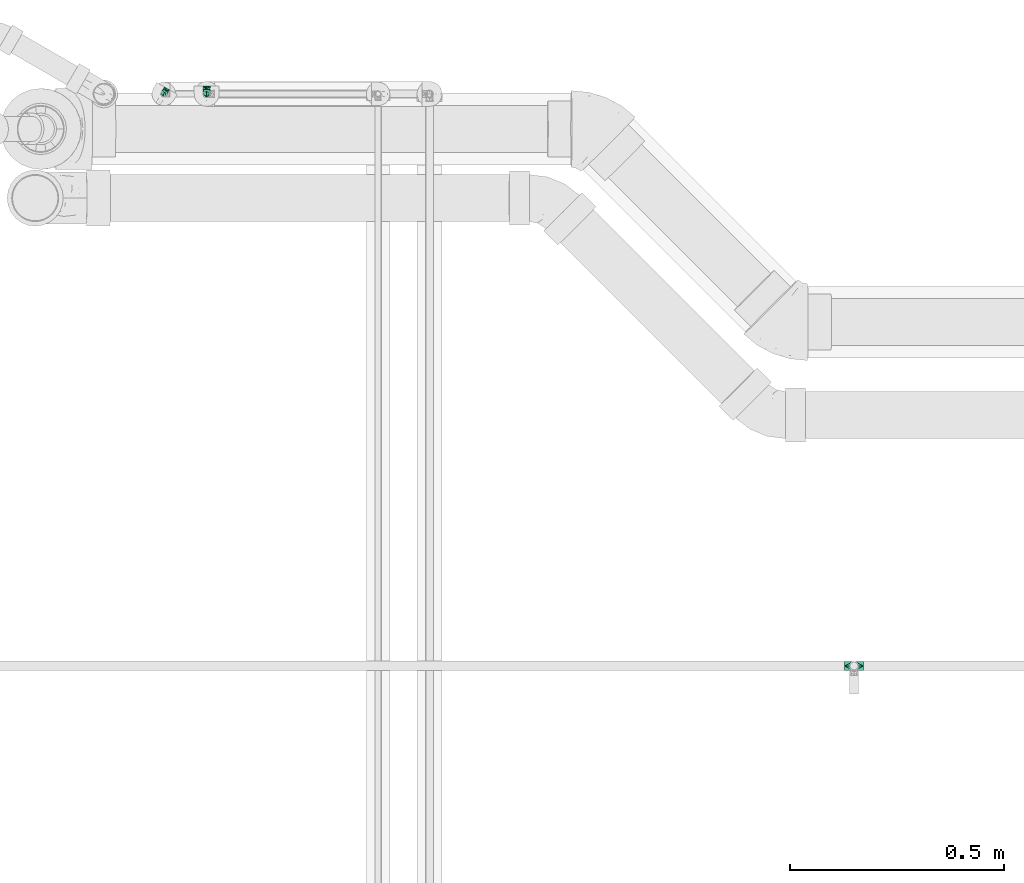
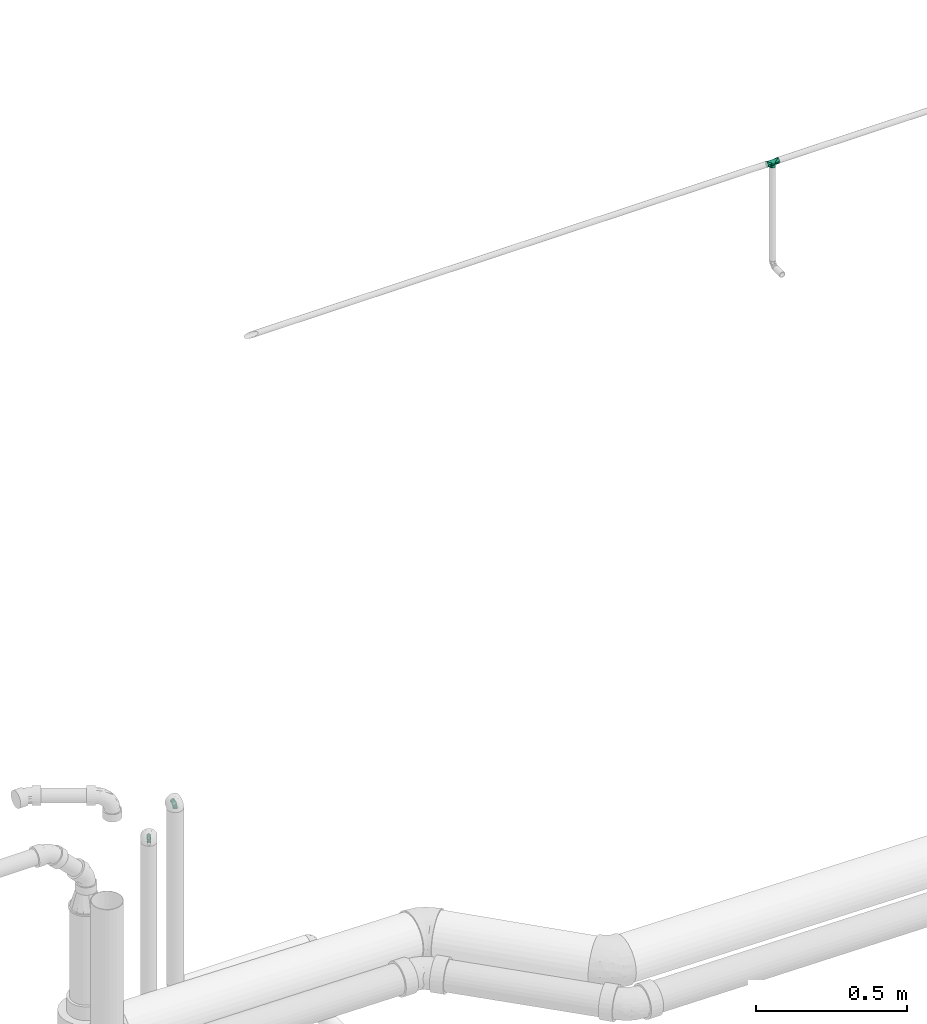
# One storey, part 77 of 78: 3 flow fittings.
"""IFC2X3 building model written with IfcOpenShell, lengths in millimetres."""

from ifc_helpers import new_model, entity, si_unit, converted_unit, derived_unit, direction, frame, origin_with_axes, place, context, subcontext, project, spatial, open_shell, surface_model, source, transform, mapped, type_object, element, save


model = new_model("IFC2X3")

# Units and contexts
model_context = context("Model", 3, precision=0.01, world=frame((0.0, 4.29681676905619e-09, 0.0)), true_north=direction((4.01073788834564e-13, 1.0)))
plan_context = context("Plan", 3, precision=0.01, world=frame((0.0, 4.29681676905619e-09, 0.0)), true_north=direction((4.01073788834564e-13, 1.0)))
body_context = subcontext(model_context, "Body", "Model", "MODEL_VIEW")
ifc_project = project(units=[converted_unit("PLANEANGLEUNIT", "DEGREE", entity("IfcPositiveLengthMeasure", 0.0174532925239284), si_unit("PLANEANGLEUNIT", "RADIAN"), dimensions=[0, 0, 0, 0, 0, 0, 0]), si_unit("AREAUNIT", "SQUARE_METRE"), si_unit("LENGTHUNIT", "METRE", prefix="MILLI"), si_unit("MASSUNIT", "GRAM", prefix="KILO"), si_unit("POWERUNIT", "WATT"), si_unit("PRESSUREUNIT", "PASCAL"), si_unit("FORCEUNIT", "NEWTON", prefix="KILO"), si_unit("ELECTRICVOLTAGEUNIT", "VOLT"), si_unit("ELECTRICCURRENTUNIT", "AMPERE"), si_unit("THERMODYNAMICTEMPERATUREUNIT", "DEGREE_CELSIUS"), si_unit("TIMEUNIT", "SECOND"), si_unit("VOLUMEUNIT", "CUBIC_METRE"), derived_unit("LINEARVELOCITYUNIT", [(si_unit("LENGTHUNIT", "METRE"), 1), (si_unit("TIMEUNIT", "SECOND"), -1)]), derived_unit("VOLUMETRICFLOWRATEUNIT", [(si_unit("VOLUMEUNIT", "CUBIC_METRE"), 1), (si_unit("TIMEUNIT", "SECOND"), -1)]), derived_unit("THERMALTRANSMITTANCEUNIT", [(si_unit("POWERUNIT", "WATT"), 1), (si_unit("THERMODYNAMICTEMPERATUREUNIT", "KELVIN"), -1), (si_unit("AREAUNIT", "SQUARE_METRE"), -1)]), derived_unit("SOUNDPRESSUREUNIT", [(si_unit("PRESSUREUNIT", "PASCAL"), 1)])], contexts=[model_context, plan_context])

# Site, building, storey
site_placement = place(None, frame((0.0, -4.29681676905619e-09, 0.0), z_axis=(0.0, 0.0, 1.0), x_axis=(1.0, 0.0, 0.0)))
site = spatial("IfcSite", under=ifc_project, at=site_placement, Name="ENGM", CompositionType="ELEMENT")
building_placement = place(site_placement, frame((0.0, 4.29681676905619e-09, 0.0), z_axis=(0.0, 0.0, 1.0), x_axis=(1.0, 0.0, 0.0)))
building = spatial("IfcBuilding", under=site, at=building_placement, Name="TH", CompositionType="ELEMENT")
storey_placement = place(building_placement, frame((0.0, 0.0, 205200.0), z_axis=(0.0, 0.0, 1.0), x_axis=(1.0, 0.0, 0.0)))
storey = spatial("IfcBuildingStorey", under=building, at=storey_placement, Name="Nivå D + 1,2 m", CompositionType="ELEMENT", Elevation=205200.0)

# Flow fittings
pipe_fitting_type_1 = type_object("IfcPipeFittingType", Name="magi_pipe_cu_elbow_short_001", PredefinedType="BEND")
shared_shape_1 = source(origin_with_axes(), body_context, "Body", "SurfaceModel", [
    surface_model("IfcShellBasedSurfaceModel", [(-17.99922, 4.5, -7.79423), (-17.99922, 2.32937, -8.69333), (-17.99922, 0.0, -9.0), (-17.99922, -6.36396, -6.36396), (-17.99922, 8.69333, -2.32937), (-17.99922, 7.79423, -4.5), (-17.99922, 6.36396, -6.36396), (-17.99922, -4.5, -7.79423), (-17.99922, -2.32937, -8.69333), (-17.99922, -7.79423, -4.5), (-17.99922, -8.69333, -2.32937), (-17.99922, -9.0, 0.0), (-17.99922, 9.0, 0.0), (-17.99922, -6.36396, 6.36396), (-17.99922, 8.69333, 2.32937), (-17.99922, 7.79423, 4.5), (-17.99922, 6.36396, 6.36396), (-17.99922, 2.32937, 8.69333), (-17.99922, 4.5, 7.79423), (-17.99922, -7.79423, 4.5), (-17.99922, -8.69333, 2.32937), (-17.99922, -4.5, 7.79423), (-17.99922, -2.32937, 8.69333), (-17.99922, 0.0, 9.0), (0.00078, 17.99922, -9.0), (-2.32859, 17.99932, -8.69333), (-4.49922, 17.99941, -7.79423), (-7.79345, 17.99956, -4.5), (-8.69255, 17.9996, -2.32937), (-6.36318, 17.9995, -6.36396), (6.36474, 17.99894, -6.36396), (2.33015, 17.99912, -8.69333), (4.50078, 17.99902, -7.79423), (7.79501, 17.99888, -4.5), (9.00078, 17.99883, 0.0), (8.69411, 17.99884, -2.32937), (-8.69255, 17.9996, 2.32937), (6.36474, 17.99894, 6.36396), (-6.36318, 17.9995, 6.36396), (-7.79345, 17.99956, 4.5), (-4.49922, 17.99941, 7.79423), (-2.32859, 17.99932, 8.69333), (7.79501, 17.99888, 4.5), (8.69411, 17.99884, 2.32937), (2.33015, 17.99912, 8.69333), (4.50078, 17.99902, 7.79423), (0.00078, 17.99922, 9.0), (-8.99922, 17.99961, 0.0), (-16.08935, -8.48827, 0.0), (-10.51006, -2.97242, 7.92285), (-10.35976, -6.95307, 0.0), (-4.49956, -5.38288, 0.0), (0.44176, -0.44178, 0.0), (2.91242, 2.02877, 0.0), (-2.7017, 1.18654, 7.65611), (-2.0289, -2.91233, 0.0), (-14.17949, -7.97654, 0.0), (-7.11668, 7.11699, 8.61341), (-4.93964, 9.63211, 8.64882), (2.97287, 10.50993, 7.92285), (2.01299, 5.84827, 7.19048), (5.38308, 4.49932, 0.0), (-5.73536, -2.07925, 7.10201), (8.48897, 16.08899, 0.0), (7.97715, 14.17914, 0.0), (-9.63189, 4.94006, 8.64882), (-10.31731, 14.81775, 0.0), (-14.81731, 10.31795, 0.0), (-11.6354, 11.6359, 0.0), (6.95352, 10.35946, 0.0), (-10.51006, -2.97242, -7.92285), (-4.93964, 9.63211, -8.64882), (0.85915, 4.12502, -7.19048), (-2.68726, 2.14047, -8.03979), (2.97287, 10.50993, -7.92285), (-13.66973, 7.29638, -6.27271), (-8.50281, 2.18786, -8.98901), (-9.83368, 8.11208, -7.36246)], [open_shell([[[0, 1, 2]], [[0, 2, 3]], [[4, 5, 6]], [[0, 4, 6]], [[4, 0, 3]], [[7, 3, 8]], [[3, 2, 8]], [[9, 10, 3]], [[11, 3, 10]], [[3, 11, 4]], [[11, 12, 4]], [[12, 13, 14]], [[15, 14, 16]], [[17, 18, 16]], [[14, 17, 16]], [[17, 14, 13]], [[19, 13, 12]], [[19, 11, 20]], [[21, 22, 13]], [[23, 13, 22]], [[17, 13, 23]], [[12, 11, 19]], [[24, 25, 26]], [[24, 26, 27]], [[27, 28, 24]], [[27, 26, 29]], [[24, 28, 30]], [[31, 30, 32]], [[31, 24, 30]], [[33, 34, 35]], [[34, 33, 30]], [[30, 36, 34]], [[30, 28, 36]], [[36, 37, 34]], [[38, 36, 39]], [[38, 40, 41]], [[38, 41, 36]], [[37, 36, 41]], [[37, 42, 34]], [[43, 34, 42]], [[37, 44, 45]], [[44, 37, 46]], [[46, 37, 41]], [[36, 28, 47]], [[20, 48, 19]], [[49, 50, 51]], [[52, 53, 54]], [[54, 55, 52]], [[21, 13, 56]], [[19, 56, 13]], [[57, 54, 58]], [[21, 50, 22]], [[23, 22, 50]], [[59, 60, 61]], [[59, 58, 60]], [[55, 54, 62]], [[23, 50, 49]], [[23, 49, 17]], [[62, 49, 51]], [[62, 51, 55]], [[42, 63, 43]], [[49, 18, 17]], [[64, 63, 42]], [[14, 65, 12]], [[15, 16, 49]], [[54, 65, 62]], [[18, 49, 16]], [[57, 58, 66]], [[67, 57, 68]], [[53, 60, 54]], [[44, 46, 69]], [[69, 45, 44]], [[38, 59, 40]], [[41, 59, 46]], [[37, 45, 64]], [[54, 60, 58]], [[64, 45, 69]], [[61, 60, 53]], [[43, 63, 34]], [[59, 61, 69]], [[58, 47, 66]], [[21, 56, 50]], [[54, 57, 65]], [[49, 65, 15]], [[36, 47, 58]], [[64, 42, 37]], [[39, 36, 58]], [[15, 65, 14]], [[38, 39, 59]], [[20, 11, 48]], [[39, 58, 59]], [[48, 56, 19]], [[40, 59, 41]], [[59, 69, 46]], [[49, 62, 65]], [[57, 67, 65]], [[66, 68, 57]], [[67, 12, 65]], [[70, 50, 2]], [[71, 72, 73]], [[74, 71, 27]], [[70, 1, 0]], [[70, 51, 50]], [[35, 34, 63]], [[75, 6, 5]], [[75, 4, 12]], [[5, 4, 75]], [[51, 76, 55]], [[75, 12, 67]], [[70, 6, 75]], [[48, 11, 10]], [[7, 56, 3]], [[2, 50, 8]], [[51, 70, 76]], [[56, 7, 50]], [[7, 8, 50]], [[70, 2, 1]], [[66, 47, 71]], [[52, 72, 53]], [[6, 70, 0]], [[70, 75, 76]], [[73, 52, 55]], [[71, 68, 66]], [[61, 53, 72]], [[32, 64, 69]], [[28, 71, 47]], [[29, 74, 27]], [[56, 9, 3]], [[26, 25, 74]], [[63, 64, 33]], [[56, 48, 9]], [[26, 74, 29]], [[9, 48, 10]], [[24, 74, 25]], [[31, 69, 24]], [[27, 71, 28]], [[30, 64, 32]], [[69, 31, 32]], [[68, 71, 77]], [[74, 24, 69]], [[33, 35, 63]], [[61, 72, 74]], [[61, 74, 69]], [[67, 77, 75]], [[74, 72, 71]], [[33, 64, 30]], [[76, 77, 73]], [[75, 77, 76]], [[77, 71, 73]], [[55, 76, 73]], [[72, 52, 73]], [[77, 67, 68]]])]),
])
flow_fitting_1_placement = place(storey_placement, frame((899490.50163, 483351.12489, 5202.07483), z_axis=(-1.0, 0.0, 0.0), x_axis=(0.0, 0.0, 1.0)))
element("IfcFlowFitting", 1, at=flow_fitting_1_placement, inside=storey, type_object=pipe_fitting_type_1, Name="magi_pipe_cu_elbow_short_001", context=body_context, shape_type="MappedRepresentation", body=[
    mapped(shared_shape_1, transform((0.0, 0.0, 0.0), scale=1.0)),
])
shared_shape_2 = source(origin_with_axes(), body_context, "Body", "SurfaceModel", [
    surface_model("IfcShellBasedSurfaceModel", [(-14.99622, 0.0, -7.5), (-14.99622, -6.49519, -3.75), (-14.99622, 1.94114, -7.24444), (-14.99622, 3.75, -6.49519), (-14.99622, 5.3033, -5.3033), (-14.99622, 7.24444, -1.94114), (-14.99622, 6.49519, -3.75), (-14.99622, -5.3033, -5.3033), (-14.99622, -3.75, -6.49519), (-14.99622, -1.94114, -7.24444), (-14.99622, -7.24444, -1.94114), (-14.99622, -7.5, 0.0), (-14.99622, 1.94114, 7.24444), (-14.99622, 3.75, 6.49519), (-14.99622, 6.49519, 3.75), (-14.99622, 7.24444, 1.94114), (-14.99622, 7.5, 0.0), (-14.99622, 5.3033, 5.3033), (-14.99622, 0.0, 7.5), (-14.99622, -6.49519, 3.75), (-14.99622, -5.3033, 5.3033), (-14.99622, -7.24444, 1.94114), (-14.99622, -1.94114, 7.24444), (-14.99622, -3.75, 6.49519), (-7.24067, 14.99805, -1.94114), (0.00378, 14.99622, -7.5), (-1.93737, 14.99671, -7.24444), (-5.29953, 14.99756, -5.3033), (-3.74622, 14.99717, -6.49519), (-6.49141, 14.99786, -3.75), (5.30708, 14.99489, 5.3033), (6.49897, 14.99459, -3.75), (1.94492, 14.99573, -7.24444), (5.30708, 14.99489, -5.3033), (3.75378, 14.99528, -6.49519), (7.50377, 14.99434, 0.0), (7.24822, 14.9944, -1.94114), (-7.49622, 14.99811, 0.0), (-7.24067, 14.99805, 1.94114), (-6.49141, 14.99786, 3.75), (-5.29953, 14.99756, 5.3033), (-3.74622, 14.99717, 6.49519), (-1.93737, 14.99671, 7.24444), (6.49897, 14.99459, 3.75), (7.24822, 14.9944, 1.94114), (3.75378, 14.99528, 6.49519), (0.00378, 14.99622, 7.5), (1.94492, 14.99573, 7.24444), (-13.40465, -7.07361, 0.0), (-8.75589, -2.47673, 6.60263), (-8.62993, -5.79444, 0.0), (-3.74786, -4.48652, 0.0), (0.3698, -0.36989, 0.0), (2.42863, 1.68842, 0.0), (-2.24979, 0.99151, 6.38196), (-1.68903, -2.4282, 0.0), (-11.81308, -6.64722, 0.0), (-5.93137, 5.93286, 7.17657), (-4.11588, 8.02676, 7.20671), (2.47893, 8.75526, 6.60263), (1.67802, 4.87104, 5.99276), (4.48746, 3.74673, 0.0), (-4.77624, -1.73283, 5.91821), (7.07699, 13.40287, 0.0), (6.6502, 11.8114, 0.0), (-12.34491, 8.59802, 0.0), (-8.02572, 4.1179, 7.20671), (-8.59491, 12.34707, 0.0), (5.79662, 8.62847, 0.0), (-9.69359, 9.69603, 0.0), (-8.75589, -2.47673, -6.60263), (-4.11588, 8.02676, -7.20671), (0.71858, 3.43838, -5.99276), (-2.23675, 1.78417, -6.70016), (2.47893, 8.75526, -6.60263), (-11.38843, 6.08033, -5.2272), (-7.08271, 1.82319, -7.49084), (-8.19234, 6.76006, -6.13506)], [open_shell([[[0, 1, 2]], [[3, 2, 4]], [[5, 6, 4]], [[4, 2, 1]], [[5, 4, 1]], [[7, 1, 8]], [[9, 8, 1]], [[10, 11, 1]], [[0, 9, 1]], [[11, 12, 1]], [[13, 5, 1]], [[14, 15, 16]], [[14, 5, 13]], [[13, 1, 12]], [[17, 14, 13]], [[11, 18, 12]], [[11, 19, 20]], [[19, 11, 21]], [[22, 18, 23]], [[23, 11, 20]], [[23, 18, 11]], [[5, 14, 16]], [[24, 25, 26]], [[27, 26, 28]], [[27, 29, 24]], [[27, 24, 26]], [[30, 31, 25]], [[32, 33, 34]], [[32, 25, 33]], [[31, 35, 36]], [[33, 25, 31]], [[31, 30, 35]], [[25, 24, 37]], [[37, 38, 39]], [[30, 37, 39]], [[40, 41, 42]], [[40, 42, 39]], [[30, 39, 42]], [[30, 43, 35]], [[44, 35, 43]], [[45, 46, 47]], [[46, 45, 30]], [[46, 30, 42]], [[25, 37, 30]], [[21, 48, 19]], [[49, 50, 51]], [[52, 53, 54]], [[54, 55, 52]], [[23, 20, 56]], [[19, 56, 20]], [[57, 54, 58]], [[23, 50, 22]], [[18, 22, 50]], [[59, 60, 61]], [[59, 58, 60]], [[55, 54, 62]], [[18, 50, 49]], [[18, 49, 12]], [[62, 49, 51]], [[62, 51, 55]], [[43, 63, 44]], [[49, 13, 12]], [[64, 63, 43]], [[57, 65, 66]], [[14, 17, 49]], [[54, 66, 62]], [[13, 49, 17]], [[57, 58, 67]], [[16, 15, 66]], [[53, 60, 54]], [[47, 46, 68]], [[68, 45, 47]], [[40, 59, 41]], [[42, 59, 46]], [[30, 45, 64]], [[54, 60, 58]], [[64, 45, 68]], [[61, 60, 53]], [[44, 63, 35]], [[59, 61, 68]], [[65, 16, 66]], [[23, 56, 50]], [[54, 57, 66]], [[49, 66, 14]], [[38, 37, 58]], [[64, 43, 30]], [[39, 38, 58]], [[14, 66, 15]], [[40, 39, 59]], [[21, 11, 48]], [[39, 58, 59]], [[48, 56, 19]], [[41, 59, 42]], [[59, 68, 46]], [[49, 62, 66]], [[65, 57, 69]], [[67, 69, 57]], [[58, 37, 67]], [[70, 50, 0]], [[71, 72, 73]], [[74, 71, 29]], [[70, 2, 3]], [[70, 51, 50]], [[36, 35, 63]], [[75, 4, 6]], [[75, 5, 16]], [[6, 5, 75]], [[51, 76, 55]], [[75, 16, 65]], [[70, 4, 75]], [[48, 11, 10]], [[8, 56, 7]], [[0, 50, 9]], [[51, 70, 76]], [[56, 8, 50]], [[8, 9, 50]], [[70, 0, 2]], [[67, 37, 71]], [[52, 72, 53]], [[4, 70, 3]], [[70, 75, 76]], [[73, 52, 55]], [[71, 69, 67]], [[61, 53, 72]], [[34, 64, 68]], [[24, 71, 37]], [[27, 74, 29]], [[56, 1, 7]], [[28, 26, 74]], [[63, 64, 31]], [[56, 48, 1]], [[28, 74, 27]], [[1, 48, 10]], [[25, 74, 26]], [[32, 68, 25]], [[29, 71, 24]], [[33, 64, 34]], [[68, 32, 34]], [[69, 71, 77]], [[74, 25, 68]], [[31, 36, 63]], [[61, 72, 74]], [[61, 74, 68]], [[65, 77, 75]], [[74, 72, 71]], [[31, 64, 33]], [[76, 77, 73]], [[75, 77, 76]], [[77, 71, 73]], [[55, 76, 73]], [[72, 52, 73]], [[77, 65, 69]]])]),
])
flow_fitting_2_placement = place(storey_placement, frame((899390.50163, 483351.12945, 5097.07483), z_axis=(-0.866025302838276, 0.500000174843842, 0.0), x_axis=(0.0, 0.0, 1.0)))
element("IfcFlowFitting", 2, at=flow_fitting_2_placement, inside=storey, type_object=pipe_fitting_type_1, Name="magi_pipe_cu_elbow_short_001", context=body_context, shape_type="MappedRepresentation", body=[
    mapped(shared_shape_2, transform((0.0, 0.0, 0.0), scale=1.0)),
])
pipe_fitting_type_2 = type_object("IfcPipeFittingType", Name="magi_pipe_cu_tee_centric_90_001", PredefinedType="JUNCTION")
shared_shape_3 = source(origin_with_axes(), body_context, "Body", "SurfaceModel", [
    surface_model("IfcShellBasedSurfaceModel", [(-22.0, 0.0, -11.0), (-22.0, -2.84701, -10.62518), (-22.0, 2.84701, -10.62518), (-22.0, 5.5, -9.52628), (-22.0, 7.77817, -7.77817), (-22.0, 10.62518, -2.84701), (-22.0, 9.52628, -5.5), (-22.0, 9.52628, 5.5), (-22.0, 10.62518, 2.84701), (-22.0, 7.77817, 7.77817), (-22.0, -2.84701, 10.62518), (-22.0, 0.0, 11.0), (-22.0, -5.5, 9.52628), (-22.0, -11.0, 0.0), (-22.0, -5.5, -9.52628), (-22.0, -7.77817, -7.77817), (-22.0, -10.62518, -2.84701), (-22.0, -9.52628, -5.5), (-22.0, 11.0, 0.0), (-22.0, 5.5, 9.52628), (-22.0, 2.84701, 10.62518), (-22.0, -7.77817, 7.77817), (-22.0, -9.52628, 5.5), (-22.0, -10.62518, 2.84701), (22.0, 2.84701, -10.62518), (22.0, -2.84701, -10.62518), (22.0, 0.0, -11.0), (22.0, 7.77817, -7.77817), (22.0, 5.5, -9.52628), (22.0, 9.52628, -5.5), (22.0, 10.62518, -2.84701), (22.0, -7.77817, -7.77817), (22.0, 5.5, 9.52628), (22.0, -11.0, 0.0), (22.0, -5.5, -9.52628), (22.0, -10.62518, -2.84701), (22.0, -9.52628, -5.5), (22.0, 10.62518, 2.84701), (22.0, 7.77817, 7.77817), (22.0, 9.52628, 5.5), (22.0, -10.62518, 2.84701), (22.0, 0.0, 11.0), (22.0, 2.84701, 10.62518), (22.0, -9.52628, 5.5), (22.0, -5.5, 9.52628), (22.0, -7.77817, 7.77817), (22.0, -2.84701, 10.62518), (22.0, 11.0, 0.0), (11.0, -11.0, 0.0), (10.60099, -10.60099, 2.93581), (9.52056, -9.52056, 5.50989), (7.98211, -7.98211, 7.56874), (6.16529, -6.16529, 9.10984), (-11.0, -11.0, 0.0), (-10.60099, -10.60099, 2.93581), (-9.52056, -9.52056, 5.50989), (-7.98211, -7.98211, 7.56874), (-6.16529, -6.16529, 9.10984), (4.18452, -4.18452, 10.17299), (2.11227, -2.11227, 10.79529), (0.0, 0.0, 11.0), (-4.18452, -4.18452, 10.17299), (-2.11227, -2.11227, 10.79529), (0.0, 0.0, -11.0), (4.18452, -4.18452, -10.17299), (2.11227, -2.11227, -10.79529), (6.16529, -6.16529, -9.10984), (-2.11227, -2.11227, -10.79529), (-4.18452, -4.18452, -10.17299), (7.98211, -7.98211, -7.56874), (9.52056, -9.52056, -5.50989), (10.60099, -10.60099, -2.93581), (-6.16529, -6.16529, -9.10984), (-7.98211, -7.98211, -7.56874), (-9.52056, -9.52056, -5.50989), (-10.60099, -10.60099, -2.93581), (2.84701, -16.5, -10.62518), (-2.84701, -16.5, -10.62518), (0.0, -16.5, -11.0), (7.77817, -16.5, -7.77817), (5.5, -16.5, -9.52628), (9.52628, -16.5, -5.5), (10.62518, -16.5, -2.84701), (-7.77817, -16.5, -7.77817), (5.5, -16.5, 9.52628), (-11.0, -16.5, 0.0), (-5.5, -16.5, -9.52628), (-10.62518, -16.5, -2.84701), (-9.52628, -16.5, -5.5), (10.62518, -16.5, 2.84701), (7.77817, -16.5, 7.77817), (9.52628, -16.5, 5.5), (-10.62518, -16.5, 2.84701), (0.0, -16.5, 11.0), (2.84701, -16.5, 10.62518), (-9.52628, -16.5, 5.5), (-5.5, -16.5, 9.52628), (-7.77817, -16.5, 7.77817), (-2.84701, -16.5, 10.62518), (11.0, -16.5, 0.0)], [open_shell([[[0, 1, 2]], [[3, 2, 4]], [[5, 6, 4]], [[7, 8, 9]], [[10, 11, 12]], [[4, 2, 13]], [[4, 13, 12]], [[14, 15, 1]], [[16, 1, 15]], [[17, 16, 15]], [[13, 1, 16]], [[13, 2, 1]], [[12, 5, 4]], [[8, 18, 9]], [[5, 12, 19]], [[9, 18, 19]], [[20, 19, 11]], [[21, 12, 22]], [[23, 22, 12]], [[12, 13, 23]], [[12, 11, 19]], [[19, 18, 5]], [[24, 25, 26]], [[27, 24, 28]], [[27, 29, 30]], [[31, 24, 27]], [[32, 33, 27]], [[25, 31, 34]], [[25, 24, 31]], [[31, 35, 36]], [[27, 35, 31]], [[27, 33, 35]], [[27, 30, 37]], [[27, 37, 32]], [[38, 37, 39]], [[33, 32, 40]], [[32, 37, 38]], [[41, 32, 42]], [[43, 44, 45]], [[44, 43, 40]], [[44, 41, 46]], [[44, 40, 32]], [[32, 41, 44]], [[37, 30, 47]], [[33, 40, 48]], [[40, 49, 48]], [[49, 40, 43]], [[49, 43, 50]], [[45, 44, 51]], [[51, 50, 45]], [[52, 51, 44]], [[45, 50, 43]], [[53, 54, 23]], [[53, 23, 13]], [[23, 54, 22]], [[54, 55, 22]], [[56, 57, 12]], [[56, 21, 55]], [[21, 56, 12]], [[55, 21, 22]], [[12, 57, 10]], [[52, 44, 46]], [[46, 41, 58]], [[58, 42, 59]], [[42, 58, 41]], [[60, 59, 42]], [[46, 58, 52]], [[32, 38, 60]], [[60, 39, 37]], [[39, 60, 38]], [[42, 32, 60]], [[60, 37, 47]], [[20, 61, 62]], [[61, 11, 10]], [[20, 11, 61]], [[61, 10, 57]], [[62, 60, 20]], [[60, 8, 7]], [[7, 9, 60]], [[19, 20, 60]], [[60, 9, 19]], [[8, 60, 18]], [[60, 47, 18]], [[30, 63, 47]], [[27, 63, 29]], [[63, 30, 29]], [[63, 27, 28]], [[24, 26, 64]], [[24, 64, 65]], [[64, 26, 25]], [[64, 25, 66]], [[28, 24, 63]], [[65, 63, 24]], [[63, 3, 4]], [[5, 63, 6]], [[4, 6, 63]], [[63, 5, 18]], [[63, 67, 2]], [[2, 68, 0]], [[1, 0, 68]], [[67, 68, 2]], [[63, 2, 3]], [[18, 47, 63]], [[34, 31, 69]], [[69, 66, 34]], [[70, 69, 31]], [[31, 36, 70]], [[36, 35, 71]], [[35, 48, 71]], [[48, 35, 33]], [[36, 71, 70]], [[72, 14, 1]], [[14, 73, 15]], [[73, 14, 72]], [[15, 73, 74]], [[72, 1, 68]], [[75, 53, 16]], [[74, 75, 17]], [[75, 16, 17]], [[16, 53, 13]], [[74, 17, 15]], [[66, 25, 34]], [[76, 77, 78]], [[79, 76, 80]], [[79, 81, 82]], [[83, 76, 79]], [[84, 85, 79]], [[77, 83, 86]], [[77, 76, 83]], [[83, 87, 88]], [[79, 87, 83]], [[79, 85, 87]], [[79, 82, 89]], [[79, 89, 84]], [[90, 89, 91]], [[85, 84, 92]], [[84, 89, 90]], [[93, 84, 94]], [[95, 96, 97]], [[96, 95, 92]], [[96, 93, 98]], [[96, 92, 84]], [[84, 93, 96]], [[89, 82, 99]], [[92, 53, 85]], [[95, 54, 92]], [[55, 97, 96]], [[96, 98, 55]], [[95, 97, 54]], [[93, 56, 98]], [[54, 53, 92]], [[55, 54, 97]], [[51, 57, 56]], [[58, 62, 61]], [[61, 57, 52]], [[55, 98, 56]], [[93, 51, 56]], [[84, 50, 94]], [[90, 50, 84]], [[49, 91, 89]], [[99, 48, 89]], [[90, 91, 49]], [[49, 89, 48]], [[60, 62, 59]], [[59, 62, 58]], [[49, 50, 90]], [[52, 57, 51]], [[50, 51, 94]], [[61, 52, 58]], [[51, 93, 94]], [[82, 48, 99]], [[81, 71, 82]], [[70, 79, 80]], [[80, 76, 70]], [[81, 79, 71]], [[78, 69, 76]], [[71, 48, 82]], [[70, 71, 79]], [[73, 66, 69]], [[68, 65, 64]], [[64, 66, 72]], [[70, 76, 69]], [[78, 73, 69]], [[86, 74, 77]], [[83, 74, 86]], [[75, 88, 87]], [[85, 53, 87]], [[83, 88, 75]], [[75, 87, 53]], [[63, 65, 67]], [[67, 65, 68]], [[75, 74, 83]], [[72, 66, 73]], [[74, 73, 77]], [[64, 72, 68]], [[73, 78, 77]]])]),
])
flow_fitting_3_placement = place(storey_placement, frame((901000.85557, 482016.52017, 8070.08702000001), z_axis=(0.0, -1.0, 0.0), x_axis=(1.0, 0.0, 0.0)))
element("IfcFlowFitting", 3, at=flow_fitting_3_placement, inside=storey, type_object=pipe_fitting_type_2, Name="magi_pipe_cu_tee_centric_90_001", context=body_context, shape_type="MappedRepresentation", body=[
    mapped(shared_shape_3, transform((0.0, 0.0, 0.0), scale=1.0)),
])

save(model, "model.ifc")
